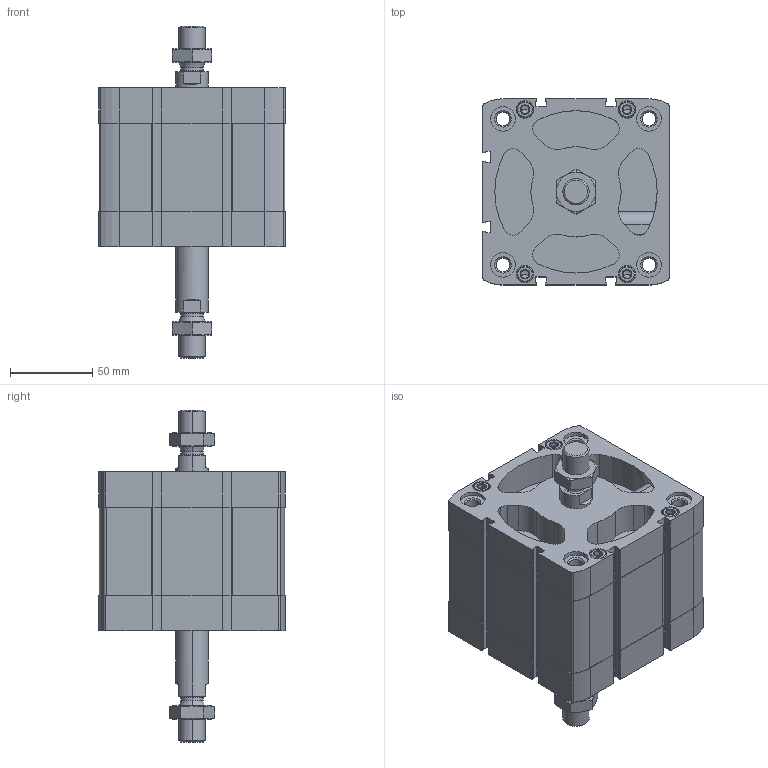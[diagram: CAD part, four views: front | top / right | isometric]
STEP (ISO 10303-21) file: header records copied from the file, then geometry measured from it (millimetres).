
FILE_DESCRIPTION (( 'STEP AP203' ), '1' );
FILE_NAME ('CCN100-30-P.STEP', '2020-06-22T19:09:38', ( '' ), ( '' ), 'SwSTEP 2.0', 'SolidWorks 2019', '' );
FILE_SCHEMA (( 'CONFIG_CONTROL_DESIGN' ));
Length unit declared in the file: millimetre
Products named in the file (1): CCN100-30-P
Bounding box: 113.5 x 113.5 x 202.4 mm (x, y, z)
Volume: 854607.2 mm3; surface area: 180943.5 mm2
Topology: 4 solids, 4 shells, 685 faces, 1757 edges, 1118 vertices
Faces by surface type: plane 305, cylinder 280, cone 92, torus 8
Entity records: 22642 total; most frequent: CARTESIAN_POINT 5549, DIRECTION 3721, ORIENTED_EDGE 3482, EDGE_CURVE 1741, AXIS2_PLACEMENT_3D 1392, VERTEX_POINT 1118, VECTOR 937, LINE 937
